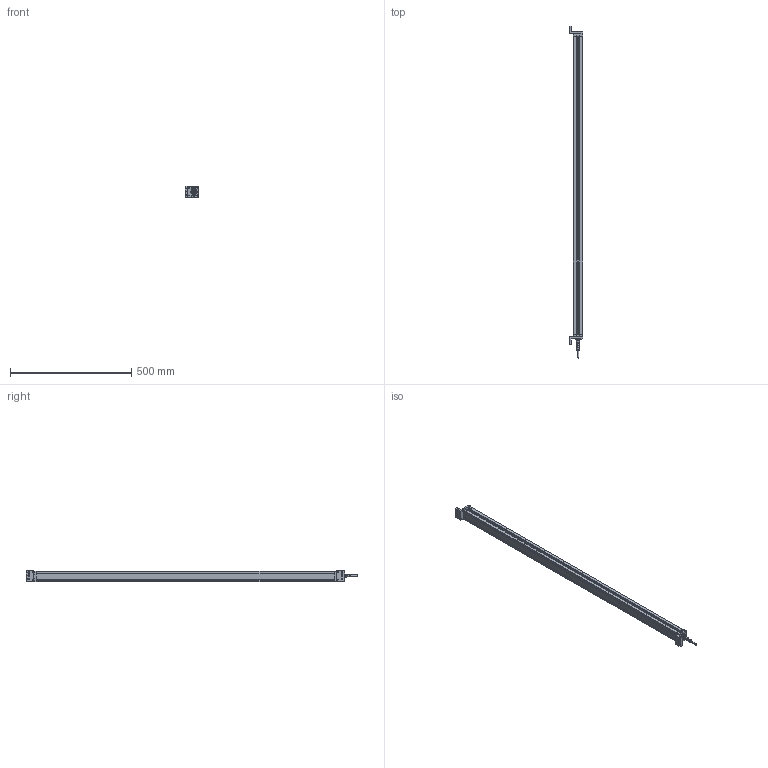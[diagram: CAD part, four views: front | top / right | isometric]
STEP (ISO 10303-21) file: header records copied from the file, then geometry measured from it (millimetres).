
FILE_DESCRIPTION (( 'STEP AP214' ), '1' );
FILE_NAME ('SH10 47.2in with Brackets Step.STEP', '2026-09-02T19:29:14', ( '' ), ( '' ), 'SwSTEP 2.0', 'SolidWorks 2025', '' );
FILE_SCHEMA (( 'AUTOMOTIVE_DESIGN' ));
Length unit declared in the file: millimetre
Products named in the file (4): 02-4017-00_V241.stp; Cable Female End; SH10 47.2in with Brackets Step; 1200 Solidworks
Assembly tree (4 placements, depth 2):
  SH10 47.2in with Brackets Step
    1200 Solidworks
    02-4017-00_V241.stp  x2
    Cable Female End
Bounding box: 56.2 x 1368.64 x 48.75 mm (x, y, z)
Volume: 729683.2 mm3; surface area: 553298.2 mm2
Topology: 12 solids, 12 shells, 1215 faces, 3151 edges, 1991 vertices
Faces by surface type: cylinder 563, plane 411, bspline 143, torus 52, cone 46
Entity records: 51115 total; most frequent: CARTESIAN_POINT 12992, ORIENTED_EDGE 5752, DIRECTION 5678, EDGE_CURVE 2876, AXIS2_PLACEMENT_3D 2114, VERTEX_POINT 1843, VECTOR 1450, LINE 1450
